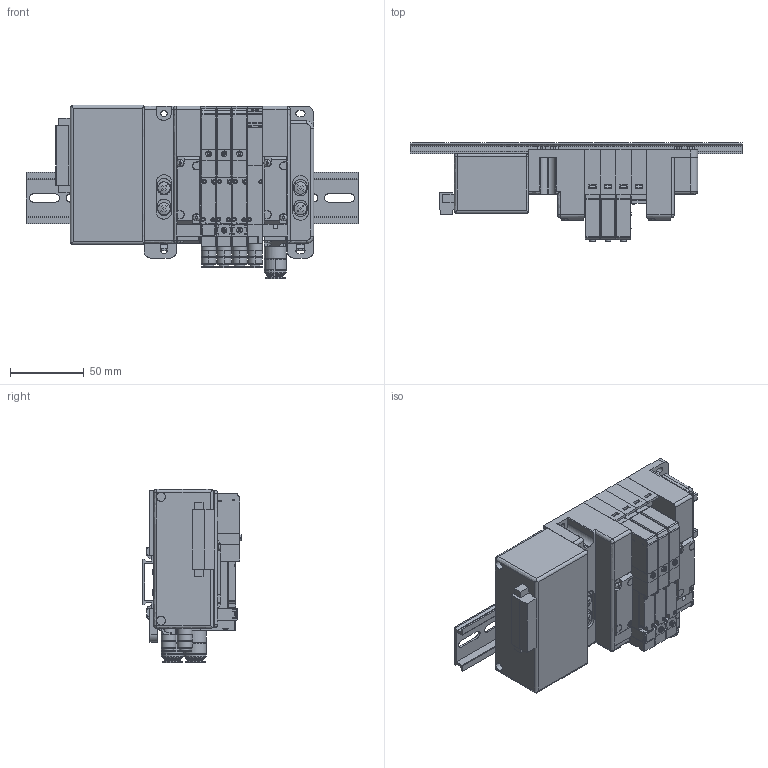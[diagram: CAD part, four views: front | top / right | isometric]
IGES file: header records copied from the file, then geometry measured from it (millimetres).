
Start section: ------------------------------------------------------------------------
Global section: file name: D:\ICADMX\tmp\trans3d_spg\CVICAD02.2536.F10M4XSJ-JR-B1-DN_15041.igs; native system: spGate; preprocessor: ver12.6.6; author: Unknown; organization: Unknown; date: 200901.145748; units: millimetre
Bounding box: 225 x 67 x 117.7 mm (x, y, z)
Volume: 663814.8 mm3; surface area: 180417.5 mm2
Topology: 38 solids, 38 shells, 3616 faces, 9721 edges, 6749 vertices
Faces by surface type: bspline 3616
